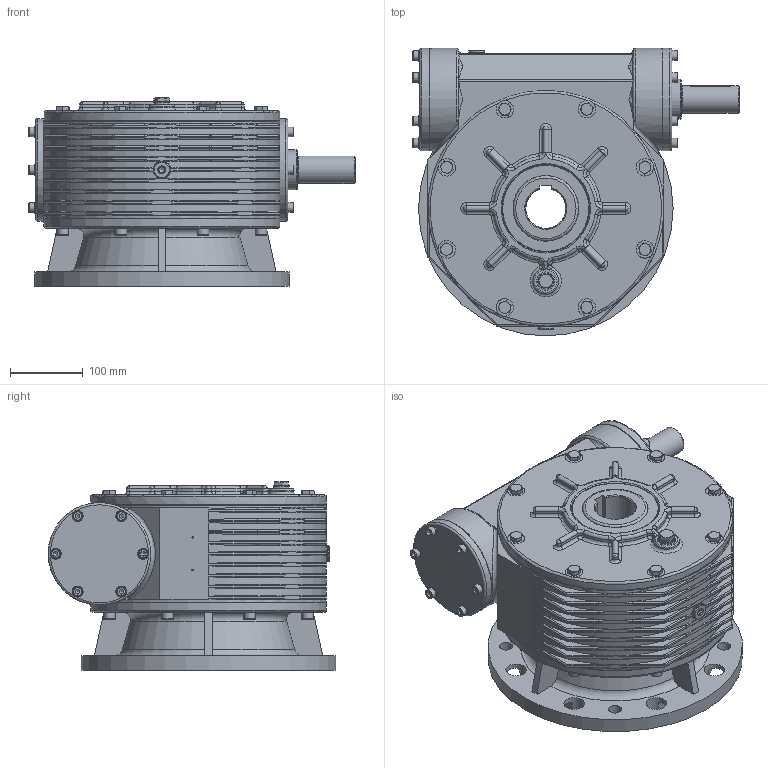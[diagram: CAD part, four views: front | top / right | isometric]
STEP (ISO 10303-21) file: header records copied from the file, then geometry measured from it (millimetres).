
FILE_DESCRIPTION((''),'2;1');
FILE_NAME('Y:\Archivi Inventor\Prog_01\GRAND_70\complessivi\Figurini\mrv70 sito\RV70\RV----70---F1---------------3D.stp','2013-03-28T08:16:57',('tech3'),(''),'Autodesk Inventor 2013','Autodesk Inventor 2013','');
FILE_SCHEMA(('AUTOMOTIVE_DESIGN { 1 0 10303 214 1 1 1 1 }'));
Length unit declared in the file: millimetre
Products named in the file (21): RV----70---F1---------------3D; MRV70 figurino; 0107001-A0 figurino; 0107008.A0 figurino; 0107029; 0107009; 0107028; DIN 3760 AS AS - 90 x 120 x 12 - NBR; UNI 8839 A 8; Guarnizione 3_8 GAS; Tappo 3_8 GAS_esagn_incsst; DIN EN ISO 4762 M8 x 20; DIN EN 24017 M10 x 20; Tappo3_8 GAS; 0107002-A0-FIG; 0107003-A0-FIG; DIN EN ISO 4762 M10 x 20; 0107012; DIN EN ISO 4762 M8 x 16; 0107011.A0 figurino; 55_70_8
Assembly tree (55 placements, depth 3):
  RV----70---F1---------------3D
    MRV70 figurino
      0107001-A0 figurino
      0107008.A0 figurino
      0107029  x2
      0107009
      0107028  x2
      DIN 3760 AS AS - 90 x 120 x 12 - NBR  x2
      UNI 8839 A 8  x6
      Guarnizione 3_8 GAS  x3
      Tappo 3_8 GAS_esagn_incsst  x2
      DIN EN ISO 4762 M8 x 20  x6
      DIN EN 24017 M10 x 20  x8
      Tappo3_8 GAS
      0107002-A0-FIG
      0107003-A0-FIG
      DIN EN ISO 4762 M10 x 20  x8
    0107012
    DIN EN ISO 4762 M8 x 16  x6
    0107011.A0 figurino
    55_70_8
Bounding box: 449 x 395.5 x 259.8 mm (x, y, z)
Volume: 18270571.1 mm3; surface area: 1548957.2 mm2
Topology: 55 solids, 56 shells, 1713 faces, 4062 edges, 2425 vertices
Faces by surface type: plane 615, cylinder 532, torus 227, cone 178, bspline 154, sphere 7
Full cylindrical faces by diameter (mm): 2 x2, 6.647 x12, 8 x14, 8.376 x16, 8.5 x25, 10 x16, 10.5 x17, 11 x16, 13 x12, 13.046 x1, 14.63 x8, 14.95 x3, 16 x8, 16.3 x3, 16.5 x2, 18 x4, 22 x6, 24 x10, 25 x1, 28 x8, 37.4 x1, 38 x1, 55 x1, 61 x1, 66.4 x1, 69 x1, 70 x2, 75 x1, 90 x4, 97.2 x2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
Entity records: 43340 total; most frequent: CARTESIAN_POINT 15319, DIRECTION 5855, ORIENTED_EDGE 5136, EDGE_CURVE 2568, AXIS2_PLACEMENT_3D 2556, VERTEX_POINT 1700, EDGE_LOOP 1676, CIRCLE 1373
